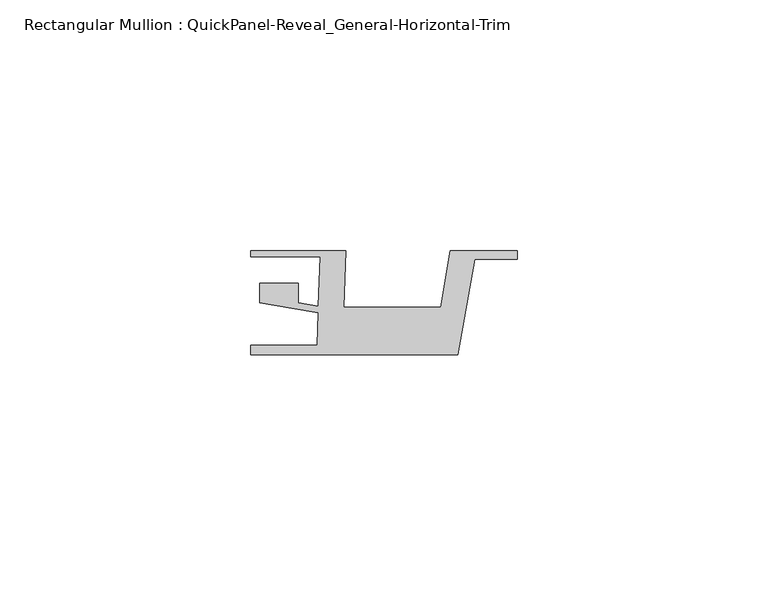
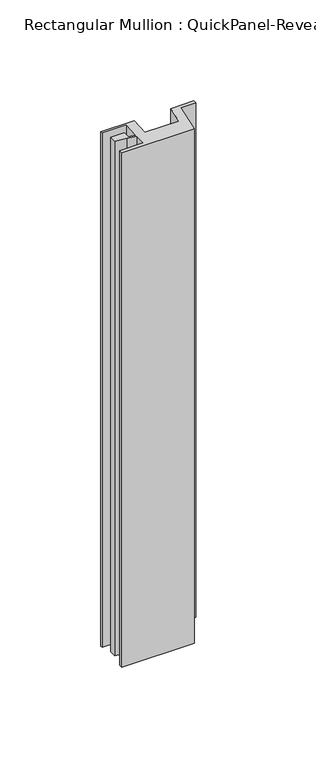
"""IFC4 building model written with IfcOpenShell, lengths in millimetres: member geometry, Rectangular Mullion : QuickPanel-Reveal_General-Horizontal-Trim."""

from ifc_helpers import new_model, si_unit, frame, origin, place, context, project, spatial, polyline, outline, extrude, source, transform, mapped, element, save


def rectangular_mullion_quickpanel_reveal_general_horizontal_2ba3c54e(model_context):
    return source(origin(), model_context, "Body", "SweptSolid", [
        extrude(outline(polyline([(-53.1926881, -8.6293878), (-53.1926881, -6.6935423), (-39.9517754, -6.6935423), (-39.7249902, -0.1992641), (-44.9752711, 0.7008023), (-51.4106037, 1.8040245), (-51.4106037, 5.6493034), (-43.6658306, 5.6493034), (-43.6658306, 1.7648465), (-39.6802617, 1.0815922), (-39.3363347, 10.9303752), (-53.1926881, 10.9303752), (-53.1926881, 12.1803727), (-34.2095873, 12.1803727), (-34.6033563, 0.9043028), (-15.3127056, 0.9043028), (-13.3796258, 12.1803727), (0.0, 12.1803727), (0.0, 10.4985348), (-8.5254306, 10.4985348), (-11.8981995, -8.6293878), (-53.1926881, -8.6293878)])), frame((0.0, 0.0, -311.0914708), z_axis=(0.0, 0.0, 1.0), x_axis=(1.0, 0.0, 0.0)), (0.0, 0.0, 1.0), 311.0914708),
    ])


if __name__ == "__main__":
    model = new_model("IFC4")
    model_context = context("Model", 3, world=origin())
    ifc_project = project(units=[si_unit("LENGTHUNIT", "METRE", prefix="MILLI")], contexts=[model_context])
    site = spatial("IfcSite", under=ifc_project)
    building = spatial("IfcBuilding", under=site)
    placement = place(None, origin())
    rectangular_mullion_quickpanel_reveal_general_horizontal_shape = rectangular_mullion_quickpanel_reveal_general_horizontal_2ba3c54e(model_context)
    element("IfcMember", 1, ObjectType="Rectangular Mullion : QuickPanel-Reveal_General-Horizontal-Trim", at=placement, inside=building, context=model_context, shape_type="MappedRepresentation", body=[
        mapped(rectangular_mullion_quickpanel_reveal_general_horizontal_shape, transform((0.0, 0.0, 0.0), x_axis=(1.0, 0.0, 0.0), y_axis=(0.0, 1.0, 0.0), z_axis=(0.0, 0.0, 1.0))),
    ])
    save(model, "model.ifc")
